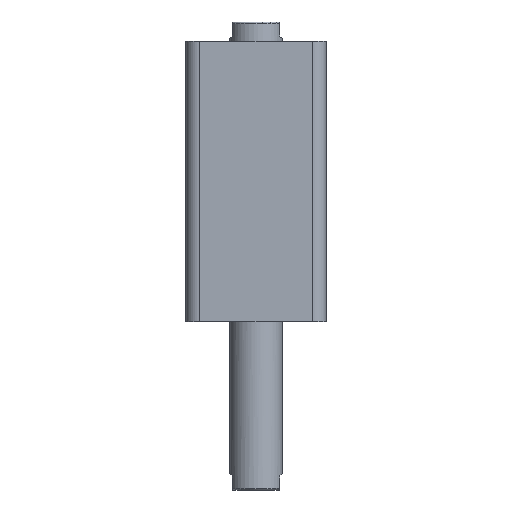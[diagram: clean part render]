
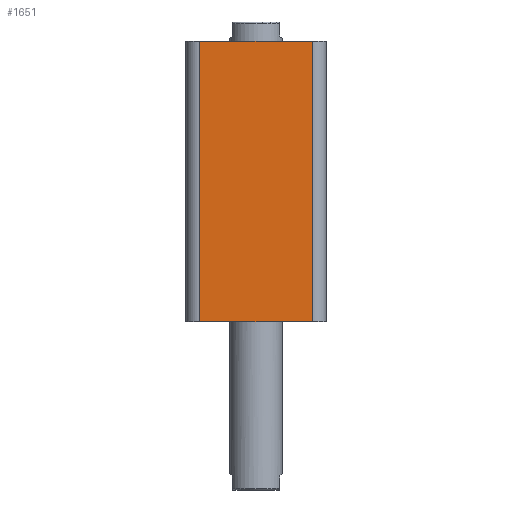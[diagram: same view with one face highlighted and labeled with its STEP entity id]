
A CAD part, front view. The second image highlights one B-rep face of the part: STEP entity #1651.
In plain terms, the highlighted planar face has unit normal (0, -1, 0).
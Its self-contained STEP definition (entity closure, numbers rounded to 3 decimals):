
#310 = ORIENTED_EDGE ( 'NONE', *, *, #418, .F. ) ;
#418 = EDGE_CURVE ( 'NONE', #835, #847, #2201, .T. ) ;
#419 = EDGE_CURVE ( 'NONE', #835, #849, #2203, .T. ) ;
#420 = EDGE_CURVE ( 'NONE', #849, #850, #2208, .T. ) ;
#421 = EDGE_CURVE ( 'NONE', #850, #847, #2207, .T. ) ;
#740 = AXIS2_PLACEMENT_3D ( 'NONE', #1456, #1461, #1462 ) ;
#835 = VERTEX_POINT ( 'NONE', #1285 ) ;
#847 = VERTEX_POINT ( 'NONE', #1293 ) ;
#849 = VERTEX_POINT ( 'NONE', #1290 ) ;
#850 = VERTEX_POINT ( 'NONE', #1295 ) ;
#873 = ORIENTED_EDGE ( 'NONE', *, *, #419, .T. ) ;
#874 = ORIENTED_EDGE ( 'NONE', *, *, #421, .T. ) ;
#1285 = CARTESIAN_POINT ( 'NONE',  ( -32., -40., 160. ) ) ;
#1290 = CARTESIAN_POINT ( 'NONE',  ( -32., -40., 0. ) ) ;
#1293 = CARTESIAN_POINT ( 'NONE',  ( 32., -40., 160. ) ) ;
#1295 = CARTESIAN_POINT ( 'NONE',  ( 32., -40., 0. ) ) ;
#1456 = CARTESIAN_POINT ( 'NONE',  ( -40., -40., 160. ) ) ;
#1458 = PLANE ( 'NONE',  #740 ) ;
#1461 = DIRECTION ( 'NONE',  ( 0., 1., 0. ) ) ;
#1462 = DIRECTION ( 'NONE',  ( 0., 0., 1. ) ) ;
#1651 = ADVANCED_FACE ( 'NONE', ( #2467 ), #1458, .F. ) ;
#1868 = ORIENTED_EDGE ( 'NONE', *, *, #420, .T. ) ;
#2201 = LINE ( 'NONE', #2833, #2204 ) ;
#2203 = LINE ( 'NONE', #2835, #2206 ) ;
#2204 = VECTOR ( 'NONE', #2834, 1000. ) ;
#2206 = VECTOR ( 'NONE', #2836, 1000. ) ;
#2207 = LINE ( 'NONE', #2838, #2211 ) ;
#2208 = LINE ( 'NONE', #2814, #2209 ) ;
#2209 = VECTOR ( 'NONE', #2837, 1000. ) ;
#2211 = VECTOR ( 'NONE', #2839, 1000. ) ;
#2467 = FACE_OUTER_BOUND ( 'NONE', #3228, .T. ) ;
#2814 = CARTESIAN_POINT ( 'NONE',  ( -40., -40., 0. ) ) ;
#2833 = CARTESIAN_POINT ( 'NONE',  ( -40., -40., 160. ) ) ;
#2834 = DIRECTION ( 'NONE',  ( 1., 0., 0. ) ) ;
#2835 = CARTESIAN_POINT ( 'NONE',  ( -32., -40., 160. ) ) ;
#2836 = DIRECTION ( 'NONE',  ( 0., 0., -1. ) ) ;
#2837 = DIRECTION ( 'NONE',  ( 1., 0., 0. ) ) ;
#2838 = CARTESIAN_POINT ( 'NONE',  ( 32., -40., 160. ) ) ;
#2839 = DIRECTION ( 'NONE',  ( 0., 0., 1. ) ) ;
#3228 = EDGE_LOOP ( 'NONE', ( #310, #873, #1868, #874 ) ) ;
